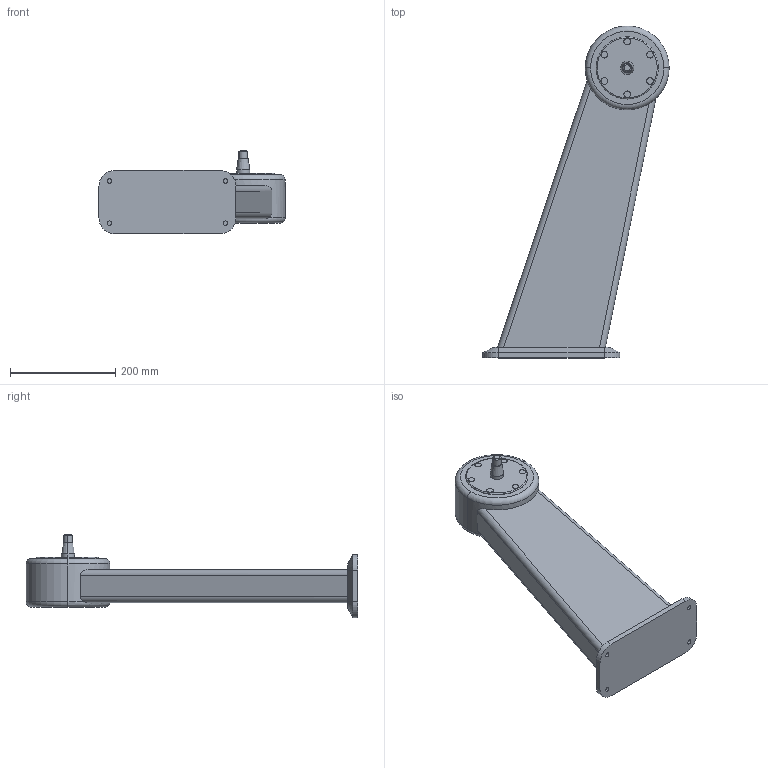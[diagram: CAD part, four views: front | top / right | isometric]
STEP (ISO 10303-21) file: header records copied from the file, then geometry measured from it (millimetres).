
FILE_DESCRIPTION (( 'STEP AP214' ), '1' );
FILE_NAME ('WP700_H550_-15.STEP', '2014-08-14T09:46:20', ( '' ), ( '' ), 'SwSTEP 2.0', 'SolidWorks 2014', '' );
FILE_SCHEMA (( 'AUTOMOTIVE_DESIGN' ));
Length unit declared in the file: millimetre
Products named in the file (1): WP700_H550_-15
Bounding box: 353.2 x 629.5 x 158.3 mm (x, y, z)
Volume: 7379968 mm3; surface area: 347948.7 mm2
Topology: 1 solids, 1 shells, 79 faces, 171 edges, 108 vertices
Faces by surface type: cylinder 36, plane 29, cone 8, torus 6
Entity records: 2294 total; most frequent: CARTESIAN_POINT 475, DIRECTION 408, ORIENTED_EDGE 342, EDGE_CURVE 171, AXIS2_PLACEMENT_3D 167, VERTEX_POINT 108, EDGE_LOOP 93, CIRCLE 87
